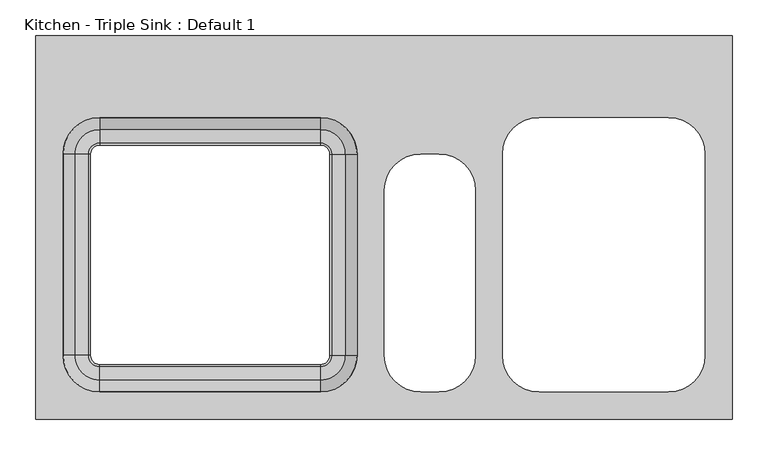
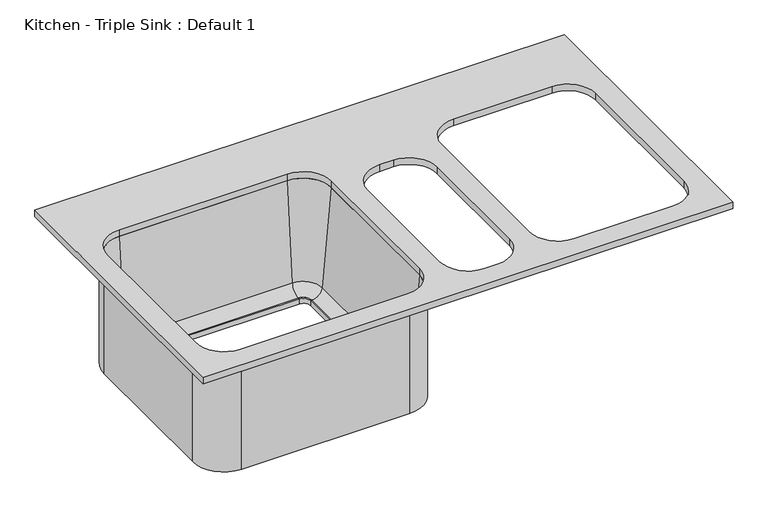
"""IFC4 building model written with IfcOpenShell, lengths in millimetres: flow terminal geometry, Kitchen - Triple Sink : Default 1."""

from ifc_helpers import new_model, si_unit, point, frame, frame_2d, origin, place, context, project, spatial, polyline, circle_curve, ellipse_curve, trimmed, segment, composite_curve, outline, extrude, source, transform, mapped, element, save
from ifc_brep_helpers import plane_surface, cylinder_surface, revolved_surface, advanced_brep


def kitchen_triple_sink_default_1_57820671(model_context):
    return source(origin(), model_context, "Body", "SolidModel", [
        advanced_brep(
        [(61.2436503, 102.4, 698.5), (4.0936503, 159.55, 698.5), (4.0936503, 159.55, 914.4), (61.2436503, 102.4, 914.4), (16.7936503, 102.4, 698.5), (4.0936503, 115.1, 698.5), (16.7936503, 102.4, 708.025), (4.0936503, 115.1, 708.025), (19.3820685, 102.4, 708.025), (4.0936503, 117.6884182, 708.025), (38.3595775, 102.4, 725.4146831), (4.0936503, 136.6659272, 725.4146831), (54.8936503, 102.4, 914.4), (4.0936503, 153.2, 914.4), (61.2436503, -178.6, 914.4), (61.2436503, -178.6, 698.5), (16.7936503, -178.6, 698.5), (16.7936503, -178.6, 708.025), (19.3820685, -178.6, 708.025), (38.3595775, -178.6, 725.4146831), (54.8936503, -178.6, 914.4), (4.0936503, -235.75, 698.5), (4.0936503, -235.75, 914.4), (4.0936503, -191.3, 698.5), (4.0936503, -191.3, 708.025), (4.0936503, -193.8884182, 708.025), (4.0936503, -212.8659272, 725.4146831), (4.0936503, -229.4, 914.4), (-304.6063497, -235.75, 914.4), (-304.6063497, -235.75, 698.5), (-304.6063497, -191.3, 698.5), (-304.6063497, -191.3, 708.025), (-304.6063497, -193.8884182, 708.025), (-304.6063497, -212.8659272, 725.4146831), (-304.6063497, -229.4, 914.4), (-361.7563497, -178.6, 698.5), (-361.7563497, -178.6, 914.4), (-317.3063497, -178.6, 698.5), (-317.3063497, -178.6, 708.025), (-319.8947679, -178.6, 708.025), (-338.8722769, -178.6, 725.4146831), (-355.4063497, -178.6, 914.4), (-361.7563497, 102.4, 914.4), (-361.7563497, 102.4, 698.5), (-317.3063497, 102.4, 698.5), (-317.3063497, 102.4, 708.025), (-319.8947679, 102.4, 708.025), (-338.8722769, 102.4, 725.4146831), (-355.4063497, 102.4, 914.4), (-304.6063497, 159.55, 698.5), (-304.6063497, 159.55, 914.4), (-304.6063497, 115.1, 698.5), (-304.6063497, 115.1, 708.025), (-304.6063497, 117.6884182, 708.025), (-304.6063497, 136.6659272, 725.4146831), (-304.6063497, 153.2, 914.4)],
        [
            (0, 1, circle_curve(frame((4.0936503, 102.4, 698.5), z_axis=(0.0, 0.0, 1.0), x_axis=(0.0, 1.0, 0.0)), 57.15)),
            (1, 2),
            (2, 3, circle_curve(frame((4.0936503, 102.4, 914.4), z_axis=(0.0, 0.0, -1.0), x_axis=(0.0, 1.0, 0.0)), 57.15)),
            (3, 0),
            (4, 5, circle_curve(frame((4.0936503, 102.4, 698.5), z_axis=(0.0, 0.0, 1.0), x_axis=(0.0, 1.0, 0.0)), 12.7)),
            (5, 1),
            (0, 4),
            (6, 7, circle_curve(frame((4.0936503, 102.4, 708.025), z_axis=(0.0, 0.0, 1.0), x_axis=(0.0, 1.0, 0.0)), 12.7)),
            (7, 5),
            (4, 6),
            (8, 9, circle_curve(frame((4.0936503, 102.4, 708.025), z_axis=(0.0, 0.0, 1.0), x_axis=(0.0, 1.0, 0.0)), 15.2884182)),
            (9, 7),
            (6, 8),
            (10, 11, circle_curve(frame((4.0936503, 102.4, 725.4146831), z_axis=(0.0, 0.0, 1.0), x_axis=(0.0, 1.0, 0.0)), 34.2659272)),
            (11, 9, circle_curve(frame((4.0936503, 117.6884182, 727.075), z_axis=(-1.0, 0.0, 0.0), x_axis=(0.0, 1.0, 0.0)), 19.05)),
            (8, 10, circle_curve(frame((19.3820685, 102.4, 727.075), z_axis=(0.0, -1.0, 0.0), x_axis=(1.0, 0.0, 0.0)), 19.05)),
            (12, 13, circle_curve(frame((4.0936503, 102.4, 914.4), z_axis=(0.0, 0.0, 1.0), x_axis=(0.0, 1.0, 0.0)), 50.8)),
            (13, 11),
            (10, 12),
            (2, 13),
            (12, 3),
            (3, 14),
            (14, 15),
            (15, 0),
            (15, 16),
            (16, 4),
            (16, 17),
            (17, 6),
            (17, 18),
            (18, 8),
            (18, 19, circle_curve(frame((19.3820685, -178.6, 727.075), z_axis=(0.0, -1.0, 0.0), x_axis=(1.0, 0.0, 0.0)), 19.05)),
            (19, 10),
            (19, 20),
            (20, 12),
            (20, 14),
            (21, 15, circle_curve(frame((4.0936503, -178.6, 698.5), z_axis=(0.0, 0.0, 1.0), x_axis=(1.0, 0.0, 0.0)), 57.15)),
            (14, 22, circle_curve(frame((4.0936503, -178.6, 914.4), z_axis=(0.0, 0.0, -1.0), x_axis=(1.0, 0.0, 0.0)), 57.15)),
            (22, 21),
            (23, 16, circle_curve(frame((4.0936503, -178.6, 698.5), z_axis=(0.0, 0.0, 1.0), x_axis=(1.0, 0.0, 0.0)), 12.7)),
            (21, 23),
            (24, 17, circle_curve(frame((4.0936503, -178.6, 708.025), z_axis=(0.0, 0.0, 1.0), x_axis=(1.0, 0.0, 0.0)), 12.7)),
            (23, 24),
            (25, 18, circle_curve(frame((4.0936503, -178.6, 708.025), z_axis=(0.0, 0.0, 1.0), x_axis=(1.0, 0.0, 0.0)), 15.2884182)),
            (24, 25),
            (26, 19, circle_curve(frame((4.0936503, -178.6, 725.4146831), z_axis=(0.0, 0.0, 1.0), x_axis=(1.0, 0.0, 0.0)), 34.2659272)),
            (25, 26, circle_curve(frame((4.0936503, -193.8884182, 727.075), z_axis=(-1.0, 0.0, 0.0), x_axis=(0.0, -1.0, 0.0)), 19.05)),
            (27, 20, circle_curve(frame((4.0936503, -178.6, 914.4), z_axis=(0.0, 0.0, 1.0), x_axis=(1.0, 0.0, 0.0)), 50.8)),
            (26, 27),
            (27, 22),
            (22, 28),
            (28, 29),
            (29, 21),
            (29, 30),
            (30, 23),
            (30, 31),
            (31, 24),
            (31, 32),
            (32, 25),
            (32, 33, circle_curve(frame((-304.6063497, -193.8884182, 727.075), z_axis=(-1.0, 0.0, 0.0), x_axis=(0.0, -1.0, 0.0)), 19.05)),
            (33, 26),
            (33, 34),
            (34, 27),
            (34, 28),
            (35, 29, circle_curve(frame((-304.6063497, -178.6, 698.5), z_axis=(0.0, 0.0, 1.0), x_axis=(0.0, -1.0, 0.0)), 57.15)),
            (28, 36, circle_curve(frame((-304.6063497, -178.6, 914.4), z_axis=(0.0, 0.0, -1.0), x_axis=(0.0, -1.0, 0.0)), 57.15)),
            (36, 35),
            (37, 30, circle_curve(frame((-304.6063497, -178.6, 698.5), z_axis=(0.0, 0.0, 1.0), x_axis=(0.0, -1.0, 0.0)), 12.7)),
            (35, 37),
            (38, 31, circle_curve(frame((-304.6063497, -178.6, 708.025), z_axis=(0.0, 0.0, 1.0), x_axis=(0.0, -1.0, 0.0)), 12.7)),
            (37, 38),
            (39, 32, circle_curve(frame((-304.6063497, -178.6, 708.025), z_axis=(0.0, 0.0, 1.0), x_axis=(0.0, -1.0, 0.0)), 15.2884182)),
            (38, 39),
            (40, 33, circle_curve(frame((-304.6063497, -178.6, 725.4146831), z_axis=(0.0, 0.0, 1.0), x_axis=(0.0, -1.0, 0.0)), 34.2659272)),
            (39, 40, circle_curve(frame((-319.8947679, -178.6, 727.075), z_axis=(0.0, 1.0, 0.0), x_axis=(-1.0, 0.0, 0.0)), 19.05)),
            (41, 34, circle_curve(frame((-304.6063497, -178.6, 914.4), z_axis=(0.0, 0.0, 1.0), x_axis=(0.0, -1.0, 0.0)), 50.8)),
            (40, 41),
            (41, 36),
            (36, 42),
            (42, 43),
            (43, 35),
            (43, 44),
            (44, 37),
            (44, 45),
            (45, 38),
            (45, 46),
            (46, 39),
            (46, 47, circle_curve(frame((-319.8947679, 102.4, 727.075), z_axis=(0.0, 1.0, 0.0), x_axis=(-1.0, 0.0, 0.0)), 19.05)),
            (47, 40),
            (47, 48),
            (48, 41),
            (48, 42),
            (49, 43, circle_curve(frame((-304.6063497, 102.4, 698.5), z_axis=(0.0, 0.0, 1.0), x_axis=(-1.0, 0.0, 0.0)), 57.15)),
            (42, 50, circle_curve(frame((-304.6063497, 102.4, 914.4), z_axis=(0.0, 0.0, -1.0), x_axis=(-1.0, 0.0, 0.0)), 57.15)),
            (50, 49),
            (51, 44, circle_curve(frame((-304.6063497, 102.4, 698.5), z_axis=(0.0, 0.0, 1.0), x_axis=(-1.0, 0.0, 0.0)), 12.7)),
            (49, 51),
            (52, 45, circle_curve(frame((-304.6063497, 102.4, 708.025), z_axis=(0.0, 0.0, 1.0), x_axis=(-1.0, 0.0, 0.0)), 12.7)),
            (51, 52),
            (53, 46, circle_curve(frame((-304.6063497, 102.4, 708.025), z_axis=(0.0, 0.0, 1.0), x_axis=(-1.0, 0.0, 0.0)), 15.2884182)),
            (52, 53),
            (54, 47, circle_curve(frame((-304.6063497, 102.4, 725.4146831), z_axis=(0.0, 0.0, 1.0), x_axis=(-1.0, 0.0, 0.0)), 34.2659272)),
            (53, 54, circle_curve(frame((-304.6063497, 117.6884182, 727.075), z_axis=(1.0, 0.0, 0.0), x_axis=(0.0, 1.0, 0.0)), 19.05)),
            (55, 48, circle_curve(frame((-304.6063497, 102.4, 914.4), z_axis=(0.0, 0.0, 1.0), x_axis=(-1.0, 0.0, 0.0)), 50.8)),
            (54, 55),
            (55, 50),
            (50, 2),
            (1, 49),
            (5, 51),
            (7, 52),
            (9, 53),
            (11, 54),
            (13, 55),
        ],
        [
            cylinder_surface(frame((4.0936503, 102.4, 14.4), z_axis=(0.0, 0.0, -1.0), x_axis=(0.0, 1.0, 0.0)), 57.15),
            plane_surface(frame((4.0936503, 102.4, 698.5), z_axis=(0.0, 0.0, -1.0), x_axis=(0.0, 1.0, 0.0))),
            revolved_surface(polyline([(4.0936503, 115.10000000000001, 698.5), (4.0936503, 115.10000000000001, 708.025)]), (4.0936503, 102.4, 14.4), (0.0, 0.0, -1.0)),
            plane_surface(frame((4.0936503, 102.4, 708.025), z_axis=(0.0, 0.0, 1.0), x_axis=(0.0, 1.0, 0.0))),
            revolved_surface(trimmed(ellipse_curve(frame((4.0936503, 117.6884182, 727.075), z_axis=(1.0, 0.0, 0.0), x_axis=(0.0, 1.0, 0.0)), 19.05, 19.05), [point((4.0936503, 117.6884182, 708.025))], [point((4.0936503, 136.6659272, 725.4146831))], True, "CARTESIAN"), (4.0936503, 102.4, 14.4), (0.0, 0.0, -1.0)),
            revolved_surface(polyline([(4.0936503, 136.6659272, 725.4146831), (4.0936503, 153.2, 914.4)]), (4.0936503, 102.4, 14.4), (0.0, 0.0, -1.0)),
            plane_surface(frame((4.0936503, 102.4, 914.4), z_axis=(0.0, 0.0, 1.0), x_axis=(0.0, 1.0, 0.0))),
            plane_surface(frame((61.2436503, 102.4, 914.4), z_axis=(1.0, 0.0, 0.0), x_axis=(0.0, -1.0, 0.0))),
            plane_surface(frame((61.2436503, 102.4, 698.5), z_axis=(0.0, 0.0, -1.0), x_axis=(0.0, -1.0, 0.0))),
            plane_surface(frame((16.7936503, 102.4, 698.5), z_axis=(-1.0, 0.0, 0.0), x_axis=(0.0, -1.0, 0.0))),
            plane_surface(frame((16.7936503, 102.4, 708.025), z_axis=(0.0, 0.0, 1.0), x_axis=(0.0, -1.0, 0.0))),
            revolved_surface(polyline([(38.4320685, -178.6, 727.075), (38.4320685, 102.4, 727.075)]), (19.3820685, 102.4, 727.075), (0.0, -1.0, 0.0)),
            plane_surface(frame((38.3595775, 102.4, 725.4146831), z_axis=(-0.9961946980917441, 0.0, 0.08715574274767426), x_axis=(0.0, -1.0, 0.0))),
            plane_surface(frame((54.8936503, 102.4, 914.4), z_axis=(0.0, 0.0, 1.0), x_axis=(0.0, -1.0, 0.0))),
            cylinder_surface(frame((4.0936503, -178.6, 14.4), z_axis=(0.0, 0.0, -1.0), x_axis=(1.0, 0.0, 0.0)), 57.15),
            plane_surface(frame((4.0936503, -178.6, 698.5), z_axis=(0.0, 0.0, -1.0), x_axis=(1.0, 0.0, 0.0))),
            revolved_surface(polyline([(16.7936503, -178.6, 698.5), (16.7936503, -178.6, 708.025)]), (4.0936503, -178.6, 14.4), (0.0, 0.0, -1.0)),
            plane_surface(frame((4.0936503, -178.6, 708.025), z_axis=(0.0, 0.0, 1.0), x_axis=(1.0, 0.0, 0.0))),
            revolved_surface(trimmed(ellipse_curve(frame((19.3820685, -178.6, 727.075), z_axis=(0.0, -1.0, 0.0), x_axis=(1.0, 0.0, 0.0)), 19.05, 19.05), [point((19.3820685, -178.6, 708.025))], [point((38.3595775, -178.6, 725.4146831))], True, "CARTESIAN"), (4.0936503, -178.6, 14.4), (0.0, 0.0, -1.0)),
            revolved_surface(polyline([(38.3595775, -178.6, 725.4146831), (54.8936503, -178.6, 914.4)]), (4.0936503, -178.6, 14.4), (0.0, 0.0, -1.0)),
            plane_surface(frame((4.0936503, -178.6, 914.4), z_axis=(0.0, 0.0, 1.0), x_axis=(1.0, 0.0, 0.0))),
            plane_surface(frame((4.0936503, -235.75, 914.4), z_axis=(0.0, -1.0, 0.0), x_axis=(-1.0, 0.0, 0.0))),
            plane_surface(frame((4.0936503, -235.75, 698.5), z_axis=(0.0, 0.0, -1.0), x_axis=(-1.0, 0.0, 0.0))),
            plane_surface(frame((4.0936503, -191.3, 698.5), z_axis=(0.0, 1.0, 0.0), x_axis=(-1.0, 0.0, 0.0))),
            plane_surface(frame((4.0936503, -191.3, 708.025), z_axis=(0.0, 0.0, 1.0), x_axis=(-1.0, 0.0, 0.0))),
            revolved_surface(polyline([(-304.6063497, -212.9384182, 727.075), (4.0936503, -212.9384182, 727.075)]), (4.0936503, -193.8884182, 727.075), (-1.0, 0.0, 0.0)),
            plane_surface(frame((4.0936503, -212.8659272, 725.4146831), z_axis=(0.0, 0.9961946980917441, 0.08715574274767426), x_axis=(-1.0, 0.0, 0.0))),
            plane_surface(frame((4.0936503, -229.4, 914.4), z_axis=(0.0, 0.0, 1.0), x_axis=(-1.0, 0.0, 0.0))),
            cylinder_surface(frame((-304.6063497, -178.6, 14.4), z_axis=(0.0, 0.0, -1.0), x_axis=(0.0, -1.0, 0.0)), 57.15),
            plane_surface(frame((-304.6063497, -178.6, 698.5), z_axis=(0.0, 0.0, -1.0), x_axis=(0.0, -1.0, 0.0))),
            revolved_surface(polyline([(-304.6063497, -191.29999999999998, 698.5), (-304.6063497, -191.29999999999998, 708.025)]), (-304.6063497, -178.6, 14.4), (0.0, 0.0, -1.0)),
            plane_surface(frame((-304.6063497, -178.6, 708.025), z_axis=(0.0, 0.0, 1.0), x_axis=(0.0, -1.0, 0.0))),
            revolved_surface(trimmed(ellipse_curve(frame((-304.6063497, -193.8884182, 727.075), z_axis=(-1.0, 0.0, 0.0), x_axis=(0.0, -1.0, 0.0)), 19.05, 19.05), [point((-304.6063497, -193.8884182, 708.025))], [point((-304.6063497, -212.8659272, 725.4146831))], True, "CARTESIAN"), (-304.6063497, -178.6, 14.4), (0.0, 0.0, -1.0)),
            revolved_surface(polyline([(-304.6063497, -212.8659272, 725.4146831), (-304.6063497, -229.4, 914.4)]), (-304.6063497, -178.6, 14.4), (0.0, 0.0, -1.0)),
            plane_surface(frame((-304.6063497, -178.6, 914.4), z_axis=(0.0, 0.0, 1.0), x_axis=(0.0, -1.0, 0.0))),
            plane_surface(frame((-361.7563497, -178.6, 914.4), z_axis=(-1.0, 0.0, 0.0), x_axis=(0.0, 1.0, 0.0))),
            plane_surface(frame((-361.7563497, -178.6, 698.5), z_axis=(0.0, 0.0, -1.0), x_axis=(0.0, 1.0, 0.0))),
            plane_surface(frame((-317.3063497, -178.6, 698.5), z_axis=(1.0, 0.0, 0.0), x_axis=(0.0, 1.0, 0.0))),
            plane_surface(frame((-317.3063497, -178.6, 708.025), z_axis=(0.0, 0.0, 1.0), x_axis=(0.0, 1.0, 0.0))),
            revolved_surface(polyline([(-338.9447679, 102.4, 727.075), (-338.9447679, -178.6, 727.075)]), (-319.8947679, -178.6, 727.075), (0.0, 1.0, 0.0)),
            plane_surface(frame((-338.8722769, -178.6, 725.4146831), z_axis=(0.9961946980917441, 0.0, 0.08715574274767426), x_axis=(0.0, 1.0, 0.0))),
            plane_surface(frame((-355.4063497, -178.6, 914.4), z_axis=(0.0, 0.0, 1.0), x_axis=(0.0, 1.0, 0.0))),
            cylinder_surface(frame((-304.6063497, 102.4, 14.4), z_axis=(0.0, 0.0, -1.0), x_axis=(-1.0, 0.0, 0.0)), 57.15),
            plane_surface(frame((-304.6063497, 102.4, 698.5), z_axis=(0.0, 0.0, -1.0), x_axis=(-1.0, 0.0, 0.0))),
            revolved_surface(polyline([(-317.3063497, 102.4, 698.5), (-317.3063497, 102.4, 708.025)]), (-304.6063497, 102.4, 14.4), (0.0, 0.0, -1.0)),
            plane_surface(frame((-304.6063497, 102.4, 708.025), z_axis=(0.0, 0.0, 1.0), x_axis=(-1.0, 0.0, 0.0))),
            revolved_surface(trimmed(ellipse_curve(frame((-319.8947679, 102.4, 727.075), z_axis=(0.0, 1.0, 0.0), x_axis=(-1.0, 0.0, 0.0)), 19.05, 19.05), [point((-319.8947679, 102.4, 708.025))], [point((-338.8722769, 102.4, 725.4146831))], True, "CARTESIAN"), (-304.6063497, 102.4, 14.4), (0.0, 0.0, -1.0)),
            revolved_surface(polyline([(-338.8722769, 102.4, 725.4146831), (-355.4063497, 102.4, 914.4)]), (-304.6063497, 102.4, 14.4), (0.0, 0.0, -1.0)),
            plane_surface(frame((-304.6063497, 102.4, 914.4), z_axis=(0.0, 0.0, 1.0), x_axis=(-1.0, 0.0, 0.0))),
            plane_surface(frame((-304.6063497, 159.55, 914.4), z_axis=(0.0, 1.0, 0.0), x_axis=(1.0, 0.0, 0.0))),
            plane_surface(frame((-304.6063497, 159.55, 698.5), z_axis=(0.0, 0.0, -1.0), x_axis=(1.0, 0.0, 0.0))),
            plane_surface(frame((-304.6063497, 115.1, 698.5), z_axis=(0.0, -1.0, 0.0), x_axis=(1.0, 0.0, 0.0))),
            plane_surface(frame((-304.6063497, 115.1, 708.025), z_axis=(0.0, 0.0, 1.0), x_axis=(1.0, 0.0, 0.0))),
            revolved_surface(polyline([(4.093650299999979, 136.7384182, 727.075), (-304.6063497, 136.7384182, 727.075)]), (-304.6063497, 117.6884182, 727.075), (1.0, 0.0, 0.0)),
            plane_surface(frame((-304.6063497, 136.6659272, 725.4146831), z_axis=(0.0, -0.9961946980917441, 0.08715574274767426), x_axis=(1.0, 0.0, 0.0))),
            plane_surface(frame((-304.6063497, 153.2, 914.4), z_axis=(0.0, 0.0, 1.0), x_axis=(1.0, 0.0, 0.0))),
        ],
        [
            (0, [[1, 2, 3, 4]]),
            (1, [[5, 6, -1, 7]]),
            (2, [[8, 9, -5, 10]]),
            (3, [[11, 12, -8, 13]]),
            (4, [[14, 15, -11, 16]]),
            (5, [[17, 18, -14, 19]]),
            (6, [[-3, 20, -17, 21]]),
            (7, [[-4, 22, 23, 24]]),
            (8, [[-7, -24, 25, 26]]),
            (9, [[-10, -26, 27, 28]]),
            (10, [[-13, -28, 29, 30]]),
            (11, [[-16, -30, 31, 32]]),
            (12, [[-19, -32, 33, 34]]),
            (13, [[-21, -34, 35, -22]]),
            (14, [[36, -23, 37, 38]]),
            (15, [[39, -25, -36, 40]]),
            (16, [[41, -27, -39, 42]]),
            (17, [[43, -29, -41, 44]]),
            (18, [[45, -31, -43, 46]]),
            (19, [[47, -33, -45, 48]]),
            (20, [[-37, -35, -47, 49]]),
            (21, [[-38, 50, 51, 52]]),
            (22, [[-40, -52, 53, 54]]),
            (23, [[-42, -54, 55, 56]]),
            (24, [[-44, -56, 57, 58]]),
            (25, [[-46, -58, 59, 60]]),
            (26, [[-48, -60, 61, 62]]),
            (27, [[-49, -62, 63, -50]]),
            (28, [[64, -51, 65, 66]]),
            (29, [[67, -53, -64, 68]]),
            (30, [[69, -55, -67, 70]]),
            (31, [[71, -57, -69, 72]]),
            (32, [[73, -59, -71, 74]]),
            (33, [[75, -61, -73, 76]]),
            (34, [[-65, -63, -75, 77]]),
            (35, [[-66, 78, 79, 80]]),
            (36, [[-68, -80, 81, 82]]),
            (37, [[-70, -82, 83, 84]]),
            (38, [[-72, -84, 85, 86]]),
            (39, [[-74, -86, 87, 88]]),
            (40, [[-76, -88, 89, 90]]),
            (41, [[-77, -90, 91, -78]]),
            (42, [[92, -79, 93, 94]]),
            (43, [[95, -81, -92, 96]]),
            (44, [[97, -83, -95, 98]]),
            (45, [[99, -85, -97, 100]]),
            (46, [[101, -87, -99, 102]]),
            (47, [[103, -89, -101, 104]]),
            (48, [[-93, -91, -103, 105]]),
            (49, [[-94, 106, -2, 107]]),
            (50, [[-96, -107, -6, 108]]),
            (51, [[-98, -108, -9, 109]]),
            (52, [[-100, -109, -12, 110]]),
            (53, [[-102, -110, -15, 111]]),
            (54, [[-104, -111, -18, 112]]),
            (55, [[-105, -112, -20, -106]]),
        ],
    ),
        extrude(outline(polyline([(578.5063497, 267.5), (578.5063497, -267.5), (-393.5063497, -267.5), (-393.5063497, 267.5), (578.5063497, 267.5)]), holes=[composite_curve([segment(polyline([(4.0936503, 153.2), (-304.6063497, 153.2)]), True, "CONTINUOUS"), segment(trimmed(circle_curve(frame_2d((-304.6063497, 102.4)), 50.8), [point((-304.6063497, 153.2))], [point((-355.4063497, 102.4))], True, "CARTESIAN"), True, "CONTINUOUS"), segment(polyline([(-355.4063497, 102.4), (-355.4063497, -178.6)]), True, "CONTINUOUS"), segment(trimmed(circle_curve(frame_2d((-304.6063497, -178.6)), 50.8), [point((-355.4063497, -178.6))], [point((-304.6063497, -229.4))], True, "CARTESIAN"), True, "CONTINUOUS"), segment(polyline([(-304.6063497, -229.4), (4.0936503, -229.4)]), True, "CONTINUOUS"), segment(trimmed(circle_curve(frame_2d((4.0936503, -178.6)), 50.8), [point((4.0936503, -229.4))], [point((54.8936503, -178.6))], True, "CARTESIAN"), True, "CONTINUOUS"), segment(polyline([(54.8936503, -178.6), (54.8936503, 102.4)]), True, "CONTINUOUS"), segment(trimmed(circle_curve(frame_2d((4.0936503, 102.4)), 50.8), [point((54.8936503, 102.4))], [point((4.0936503, 153.2))], True, "CARTESIAN"), True, "CONTINUOUS")], self_intersect=False), composite_curve([segment(polyline([(308.8936503, -229.4), (489.6063497, -229.4)]), True, "CONTINUOUS"), segment(trimmed(circle_curve(frame_2d((489.6063497, -178.6)), 50.8), [point((489.6063497, -229.4))], [point((540.4063497, -178.6))], True, "CARTESIAN"), True, "CONTINUOUS"), segment(polyline([(540.4063497, -178.6), (540.4063497, 102.4)]), True, "CONTINUOUS"), segment(trimmed(circle_curve(frame_2d((489.6063497, 102.4)), 50.8), [point((540.4063497, 102.4))], [point((489.6063497, 153.2))], True, "CARTESIAN"), True, "CONTINUOUS"), segment(polyline([(489.6063497, 153.2), (308.8936503, 153.2)]), True, "CONTINUOUS"), segment(trimmed(circle_curve(frame_2d((308.8936503, 102.4)), 50.8), [point((308.8936503, 153.2))], [point((258.0936503, 102.4))], True, "CARTESIAN"), True, "CONTINUOUS"), segment(polyline([(258.0936503, 102.4), (258.0936503, -178.6)]), True, "CONTINUOUS"), segment(trimmed(circle_curve(frame_2d((308.8936503, -178.6)), 50.8), [point((258.0936503, -178.6))], [point((308.8936503, -229.4))], True, "CARTESIAN"), True, "CONTINUOUS")], self_intersect=False), composite_curve([segment(trimmed(circle_curve(frame_2d((169.1936503, -178.6)), 50.8), [point((169.1936503, -229.4))], [point((219.9936503, -178.6))], True, "CARTESIAN"), True, "CONTINUOUS"), segment(polyline([(219.9936503, -178.6), (219.9936503, 51.6)]), True, "CONTINUOUS"), segment(trimmed(circle_curve(frame_2d((169.1936503, 51.6)), 50.8), [point((219.9936503, 51.6))], [point((169.1936503, 102.4))], True, "CARTESIAN"), True, "CONTINUOUS"), segment(polyline([(169.1936503, 102.4), (143.7936503, 102.4)]), True, "CONTINUOUS"), segment(trimmed(circle_curve(frame_2d((143.7936503, 51.6)), 50.8), [point((143.7936503, 102.4))], [point((92.9936503, 51.6))], True, "CARTESIAN"), True, "CONTINUOUS"), segment(polyline([(92.9936503, 51.6), (92.9936503, -178.6)]), True, "CONTINUOUS"), segment(trimmed(circle_curve(frame_2d((143.7936503, -178.6)), 50.8), [point((92.9936503, -178.6))], [point((143.7936503, -229.4))], True, "CARTESIAN"), True, "CONTINUOUS"), segment(polyline([(143.7936503, -229.4), (169.1936503, -229.4)]), True, "CONTINUOUS")], self_intersect=False)]), frame((0.0, 0.0, 914.4), z_axis=(0.0, 0.0, 1.0), x_axis=(1.0, 0.0, 0.0)), (0.0, 0.0, 1.0), 12.7),
    ])


if __name__ == "__main__":
    model = new_model("IFC4")
    model_context = context("Model", 3, world=origin())
    ifc_project = project(units=[si_unit("LENGTHUNIT", "METRE", prefix="MILLI")], contexts=[model_context])
    site = spatial("IfcSite", under=ifc_project)
    building = spatial("IfcBuilding", under=site)
    placement = place(None, origin())
    kitchen_triple_sink_default_1_shape = kitchen_triple_sink_default_1_57820671(model_context)
    element("IfcFlowTerminal", 1, ObjectType="Kitchen - Triple Sink : Default 1", at=placement, inside=building, context=model_context, shape_type="MappedRepresentation", body=[
        mapped(kitchen_triple_sink_default_1_shape, transform((0.0, 0.0, 0.0), x_axis=(1.0, 0.0, 0.0), y_axis=(0.0, 1.0, 0.0), z_axis=(0.0, 0.0, 1.0))),
    ])
    save(model, "model.ifc")
